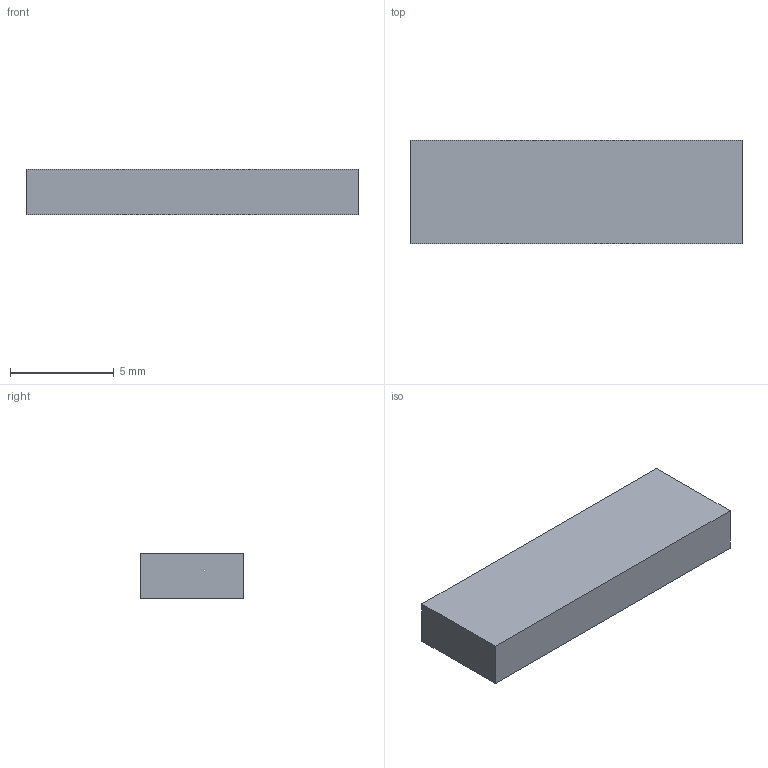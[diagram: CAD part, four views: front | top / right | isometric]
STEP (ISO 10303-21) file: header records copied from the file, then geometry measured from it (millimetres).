
FILE_DESCRIPTION(('FreeCAD Model'),'2;1');
FILE_NAME('Open CASCADE Shape Model','2026-10-16T14:08:32',('FreeCAD'),( 'FreeCAD'),'Open CASCADE STEP processor 7.8','FreeCAD','Unknown');
FILE_SCHEMA(('AUTOMOTIVE_DESIGN { 1 0 10303 214 1 1 1 1 }'));
Length unit declared in the file: millimetre
Products named in the file (1): Open CASCADE STEP translator 7.8 2
Bounding box: 16 x 5 x 2.2 mm (x, y, z)
Volume: 176 mm3; surface area: 252.4 mm2
Topology: 1 solids, 1 shells, 6 faces, 12 edges, 8 vertices
Faces by surface type: plane 6
Entity records: 166 total; most frequent: CARTESIAN_POINT 27, DIRECTION 26, ORIENTED_EDGE 24, EDGE_CURVE 12, LINE 12, VECTOR 12, VERTEX_POINT 8, AXIS2_PLACEMENT_3D 7
